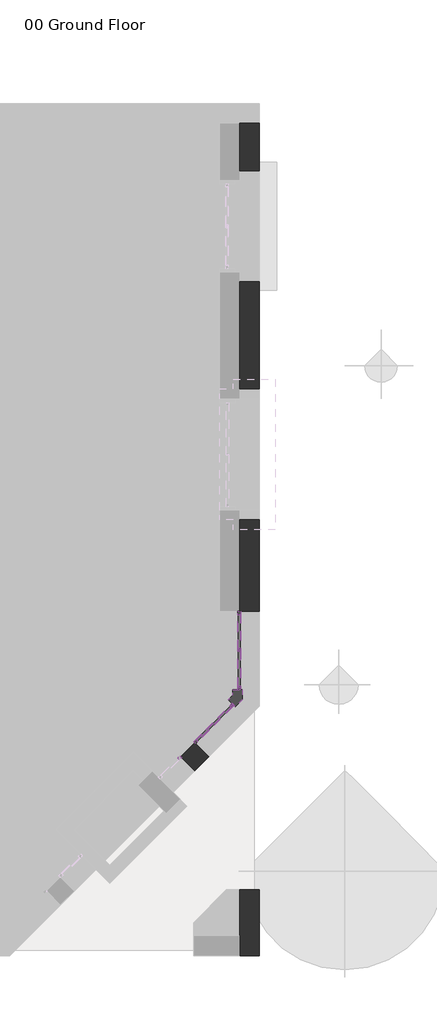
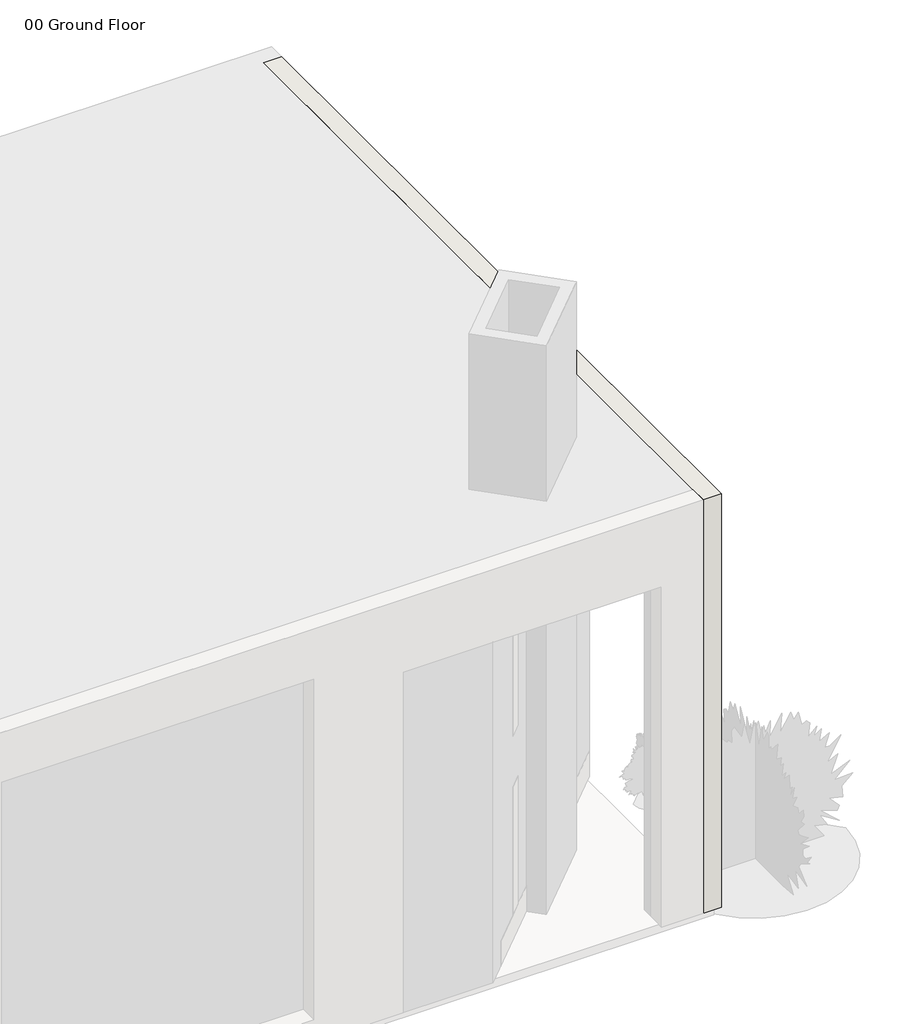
# One storey, part 2 of 3: 60 members, 24 plates, 3 walls.
"""IFC4 building model written with IfcOpenShell, lengths in millimetres."""

from ifc_helpers import new_model, si_unit, frame, origin, origin_with_axes, place, context, project, spatial, polyline, outline, extrude, faceted_brep, transform, mapped, element, save
from components import l_corner_mullion_l_mullion_1_6c701851, l_corner_mullion_l_mullion_1_c42eb2e1, l_corner_mullion_l_mullion_1_990ac218, l_corner_mullion_l_mullion_1_b7400e29, rectangular_mullion_30mm_square_c99fbce2, rectangular_mullion_30mm_square_86fe4f9d, rectangular_mullion_30mm_square_0cab2742, rectangular_mullion_30mm_square_9a9e542b, rectangular_mullion_30mm_square_d540a23e, rectangular_mullion_30mm_square_b8f5c0d0, rectangular_mullion_30mm_square_92fc4059, rectangular_mullion_30mm_square_c7845013, rectangular_mullion_30mm_square_cfffb5b5, rectangular_mullion_30mm_square_2bdfadd5, rectangular_mullion_30mm_square_d3a20935, rectangular_mullion_30mm_square_36c9886d, rectangular_mullion_30mm_square_5c36246a, rectangular_mullion_30mm_square_19e9d722, rectangular_mullion_30mm_square_e6c345db, rectangular_mullion_30mm_square_465452b0, rectangular_mullion_30mm_square_243782b9, rectangular_mullion_30mm_square_9f93f3b7, rectangular_mullion_30mm_square_b8c613d2, rectangular_mullion_30mm_square_a630d028, rectangular_mullion_30mm_square_57db9ed4, rectangular_mullion_30mm_square_43e794fb, rectangular_mullion_30mm_square_5b0a7153, rectangular_mullion_30mm_square_79db5f72, rectangular_mullion_30mm_square_9b7f0ff9, rectangular_mullion_30mm_square_73ec684f, rectangular_mullion_30mm_square_99fc8dea, rectangular_mullion_30mm_square_0144705c, rectangular_mullion_30mm_square_a3b71786, rectangular_mullion_30mm_square_283fde36, rectangular_mullion_30mm_square_83ac8318, rectangular_mullion_30mm_square_d8b3822f, rectangular_mullion_30mm_square_8af27c46, rectangular_mullion_30mm_square_169eb236, rectangular_mullion_30mm_square_d37a6e9a, rectangular_mullion_30mm_square_640eb250, rectangular_mullion_30mm_square_5b9becf0, system_panel_glazed_29cb387f, system_panel_glazed_66c00574, system_panel_glazed_60aad79c, system_panel_glazed_de956dc5, system_panel_glazed_7e76eec9, system_panel_glazed_4ccf8f99, system_panel_glazed_48e7aa56, system_panel_glazed_bf098422, system_panel_glazed_59f69a9d, system_panel_glazed_41b5ac35, system_panel_glazed_49ce6051, system_panel_glazed_b8dc1328, system_panel_glazed_4078d1d8, system_panel_glazed_5cd88ea6, system_panel_glazed_796e0f42, system_panel_glazed_7af4c93c, system_panel_glazed_cb251399, system_panel_glazed_a4b6cea3, system_panel_glazed_86d274d6, system_panel_glazed_e756f155, system_panel_glazed_d6d17fb9, system_panel_glazed_fee34500, system_panel_glazed_deddf482, system_panel_glazed_54347527

model = new_model("IFC4")

# Units and contexts
model_context = context("Model", 3, world=origin())
ifc_project = project(units=[si_unit("LENGTHUNIT", "METRE", prefix="MILLI")], contexts=[model_context])

# Site, building, storey
site = spatial("IfcSite", under=ifc_project)
building = spatial("IfcBuilding", under=site)
storey = spatial("IfcBuildingStorey", under=building, Name="00 Ground Floor", Elevation=0.0)

# Members
placement = place(None, origin())
l_corner_mullion_l_mullion_1_shape = l_corner_mullion_l_mullion_1_6c701851(model_context)
element("IfcMember", 1, ObjectType="L Corner Mullion : L Mullion 1", at=placement, inside=storey, context=model_context, shape_type="MappedRepresentation", body=[
    mapped(l_corner_mullion_l_mullion_1_shape, transform((12694.2552971, 3926.1313165, 2071.7444455), x_axis=(0.0, -1.0, 0.0), y_axis=(1.0, 0.0, 0.0), z_axis=(0.0, 0.0, 1.0))),
])
l_corner_mullion_l_mullion_1_2_shape = l_corner_mullion_l_mullion_1_c42eb2e1(model_context)
element("IfcMember", 2, ObjectType="L Corner Mullion : L Mullion 1", at=placement, inside=storey, context=model_context, shape_type="MappedRepresentation", body=[
    mapped(l_corner_mullion_l_mullion_1_2_shape, transform((12694.2552971, 3926.1313165, 2700.0), x_axis=(0.0, -1.0, 0.0), y_axis=(1.0, 0.0, 0.0), z_axis=(0.0, 0.0, 1.0))),
])
l_corner_mullion_l_mullion_1_3_shape = l_corner_mullion_l_mullion_1_990ac218(model_context)
element("IfcMember", 3, ObjectType="L Corner Mullion : L Mullion 1", at=placement, inside=storey, context=model_context, shape_type="MappedRepresentation", body=[
    mapped(l_corner_mullion_l_mullion_1_3_shape, transform((12694.2552971, 3926.1313165, 980.0), x_axis=(0.0, -1.0, 0.0), y_axis=(1.0, 0.0, 0.0), z_axis=(0.0, 0.0, 1.0))),
])
l_corner_mullion_l_mullion_1_4_shape = l_corner_mullion_l_mullion_1_b7400e29(model_context)
element("IfcMember", 4, ObjectType="L Corner Mullion : L Mullion 1", at=placement, inside=storey, context=model_context, shape_type="MappedRepresentation", body=[
    mapped(l_corner_mullion_l_mullion_1_4_shape, transform((12694.2552971, 3926.1313165, 460.0), x_axis=(0.0, -1.0, 0.0), y_axis=(1.0, 0.0, 0.0), z_axis=(0.0, 0.0, 1.0))),
])
rectangular_mullion_30mm_square_shape = rectangular_mullion_30mm_square_c99fbce2(model_context)
element("IfcMember", 5, ObjectType="Rectangular Mullion : 30mm Square", at=placement, inside=storey, context=model_context, shape_type="MappedRepresentation", body=[
    mapped(rectangular_mullion_30mm_square_shape, transform((12601.4943665, 3833.3703858, 4122.4158839), x_axis=(0.0, 0.0, 1.0), y_axis=(0.707106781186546, -0.7071067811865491, 0.0), z_axis=(0.707106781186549, 0.7071067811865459, 0.0))),
])
element("IfcMember", 6, ObjectType="Rectangular Mullion : 30mm Square", at=placement, inside=storey, context=model_context, shape_type="MappedRepresentation", body=[
    mapped(rectangular_mullion_30mm_square_shape, transform((12601.4943665, 3833.3703858, 5380.0), x_axis=(0.0, 0.0, 1.0), y_axis=(0.707106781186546, -0.7071067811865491, 0.0), z_axis=(0.707106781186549, 0.7071067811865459, 0.0))),
])
rectangular_mullion_30mm_square_2_shape = rectangular_mullion_30mm_square_86fe4f9d(model_context)
element("IfcMember", 7, ObjectType="Rectangular Mullion : 30mm Square", at=placement, inside=storey, context=model_context, shape_type="MappedRepresentation", body=[
    mapped(rectangular_mullion_30mm_square_2_shape, transform((12598.7958817, 3830.671901, 3602.4158839), x_axis=(0.0, 0.0, -1.0), y_axis=(0.7071067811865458, -0.7071067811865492, 0.0), z_axis=(-0.7071067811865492, -0.7071067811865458, 0.0))),
])
rectangular_mullion_30mm_square_3_shape = rectangular_mullion_30mm_square_0cab2742(model_context)
element("IfcMember", 8, ObjectType="Rectangular Mullion : 30mm Square", at=placement, inside=storey, context=model_context, shape_type="MappedRepresentation", body=[
    mapped(rectangular_mullion_30mm_square_3_shape, transform((12581.1182121, 3812.9942315, 3602.4158839), x_axis=(0.7071067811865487, 0.7071067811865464, 0.0), y_axis=(0.7071067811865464, -0.7071067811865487, 0.0), z_axis=(0.0, 0.0, -1.0))),
])
rectangular_mullion_30mm_square_4_shape = rectangular_mullion_30mm_square_9a9e542b(model_context)
element("IfcMember", 9, ObjectType="Rectangular Mullion : 30mm Square", at=placement, inside=storey, context=model_context, shape_type="MappedRepresentation", body=[
    mapped(rectangular_mullion_30mm_square_4_shape, transform((12694.2552971, 4083.6313165, 980.0), x_axis=(0.0, 1.0, 0.0), y_axis=(1.0, 0.0, 0.0), z_axis=(0.0, 0.0, -1.0))),
])
rectangular_mullion_30mm_square_5_shape = rectangular_mullion_30mm_square_d540a23e(model_context)
element("IfcMember", 10, ObjectType="Rectangular Mullion : 30mm Square", at=placement, inside=storey, context=model_context, shape_type="MappedRepresentation", body=[
    mapped(rectangular_mullion_30mm_square_5_shape, transform((12694.2552971, 5250.511329, 980.0), x_axis=(0.0, 1.0, 0.0), y_axis=(1.0, 0.0, 0.0), z_axis=(0.0, 0.0, -1.0))),
])
rectangular_mullion_30mm_square_6_shape = rectangular_mullion_30mm_square_b8f5c0d0(model_context)
element("IfcMember", 11, ObjectType="Rectangular Mullion : 30mm Square", at=placement, inside=storey, context=model_context, shape_type="MappedRepresentation", body=[
    mapped(rectangular_mullion_30mm_square_6_shape, transform((12694.2552971, 4058.6313165, 2071.7444455), x_axis=(0.0, 0.0, 1.0), y_axis=(1.0, 0.0, 0.0), z_axis=(0.0, 1.0, 0.0))),
])
element("IfcMember", 12, ObjectType="Rectangular Mullion : 30mm Square", at=placement, inside=storey, context=model_context, shape_type="MappedRepresentation", body=[
    mapped(rectangular_mullion_30mm_square_6_shape, transform((12694.2552971, 4058.6313165, 980.0), x_axis=(0.0, 0.0, 1.0), y_axis=(1.0, 0.0, 0.0), z_axis=(0.0, 1.0, 0.0))),
])
element("IfcMember", 13, ObjectType="Rectangular Mullion : 30mm Square", at=placement, inside=storey, context=model_context, shape_type="MappedRepresentation", body=[
    mapped(rectangular_mullion_30mm_square_6_shape, transform((12694.2552971, 4058.6313165, 460.0), x_axis=(0.0, 0.0, 1.0), y_axis=(1.0, 0.0, 0.0), z_axis=(0.0, 1.0, 0.0))),
])
rectangular_mullion_30mm_square_7_shape = rectangular_mullion_30mm_square_92fc4059(model_context)
element("IfcMember", 14, ObjectType="Rectangular Mullion : 30mm Square", at=placement, inside=storey, context=model_context, shape_type="MappedRepresentation", body=[
    mapped(rectangular_mullion_30mm_square_7_shape, transform((12694.2552971, 4057.3150827, 100.0), x_axis=(0.0, 0.0, -1.0), y_axis=(1.0, 0.0, 0.0), z_axis=(0.0, -1.0, 0.0))),
])
rectangular_mullion_30mm_square_8_shape = rectangular_mullion_30mm_square_c7845013(model_context)
element("IfcMember", 15, ObjectType="Rectangular Mullion : 30mm Square", at=placement, inside=storey, context=model_context, shape_type="MappedRepresentation", body=[
    mapped(rectangular_mullion_30mm_square_8_shape, transform((12694.2552971, 4083.6313165, 2700.0), x_axis=(0.0, 0.0, 1.0), y_axis=(1.0, 0.0, 0.0), z_axis=(0.0, 1.0, 0.0))),
])
rectangular_mullion_30mm_square_9_shape = rectangular_mullion_30mm_square_cfffb5b5(model_context)
element("IfcMember", 16, ObjectType="Rectangular Mullion : 30mm Square", at=placement, inside=storey, context=model_context, shape_type="MappedRepresentation", body=[
    mapped(rectangular_mullion_30mm_square_9_shape, transform((12694.2552971, 4667.0713227, 1005.0), x_axis=(0.0, 1.0, 0.0), y_axis=(1.0, 0.0, 0.0), z_axis=(0.0, 0.0, -1.0))),
])
rectangular_mullion_30mm_square_10_shape = rectangular_mullion_30mm_square_2bdfadd5(model_context)
element("IfcMember", 17, ObjectType="Rectangular Mullion : 30mm Square", at=placement, inside=storey, context=model_context, shape_type="MappedRepresentation", body=[
    mapped(rectangular_mullion_30mm_square_10_shape, transform((12694.2552971, 5200.511329, 2071.7444455), x_axis=(0.0, 0.0, 1.0), y_axis=(1.0, 0.0, 0.0), z_axis=(0.0, 1.0, 0.0))),
])
element("IfcMember", 18, ObjectType="Rectangular Mullion : 30mm Square", at=placement, inside=storey, context=model_context, shape_type="MappedRepresentation", body=[
    mapped(rectangular_mullion_30mm_square_10_shape, transform((12694.2552971, 5200.511329, 980.0), x_axis=(0.0, 0.0, 1.0), y_axis=(1.0, 0.0, 0.0), z_axis=(0.0, 1.0, 0.0))),
])
element("IfcMember", 19, ObjectType="Rectangular Mullion : 30mm Square", at=placement, inside=storey, context=model_context, shape_type="MappedRepresentation", body=[
    mapped(rectangular_mullion_30mm_square_10_shape, transform((12694.2552971, 5200.511329, 460.0), x_axis=(0.0, 0.0, 1.0), y_axis=(1.0, 0.0, 0.0), z_axis=(0.0, 1.0, 0.0))),
])
rectangular_mullion_30mm_square_11_shape = rectangular_mullion_30mm_square_d3a20935(model_context)
element("IfcMember", 20, ObjectType="Rectangular Mullion : 30mm Square", at=placement, inside=storey, context=model_context, shape_type="MappedRepresentation", body=[
    mapped(rectangular_mullion_30mm_square_11_shape, transform((12694.2552971, 5250.511329, 2700.0), x_axis=(0.0, 0.0, 1.0), y_axis=(1.0, 0.0, 0.0), z_axis=(0.0, 1.0, 0.0))),
])
element("IfcMember", 21, ObjectType="Rectangular Mullion : 30mm Square", at=placement, inside=storey, context=model_context, shape_type="MappedRepresentation", body=[
    mapped(rectangular_mullion_30mm_square_11_shape, transform((12694.2552971, 4667.0713227, 2700.0), x_axis=(0.0, 0.0, 1.0), y_axis=(1.0, 0.0, 0.0), z_axis=(0.0, 1.0, 0.0))),
])
rectangular_mullion_30mm_square_12_shape = rectangular_mullion_30mm_square_36c9886d(model_context)
element("IfcMember", 22, ObjectType="Rectangular Mullion : 30mm Square", at=placement, inside=storey, context=model_context, shape_type="MappedRepresentation", body=[
    mapped(rectangular_mullion_30mm_square_12_shape, transform((12694.2552971, 4667.0713227, 100.0), x_axis=(0.0, 0.0, -1.0), y_axis=(1.0, 0.0, 0.0), z_axis=(0.0, -1.0, 0.0))),
])
rectangular_mullion_30mm_square_13_shape = rectangular_mullion_30mm_square_5c36246a(model_context)
element("IfcMember", 23, ObjectType="Rectangular Mullion : 30mm Square", at=placement, inside=storey, context=model_context, shape_type="MappedRepresentation", body=[
    mapped(rectangular_mullion_30mm_square_13_shape, transform((12694.2552971, 4667.0713227, 2071.7444455), x_axis=(0.0, 0.0, 1.0), y_axis=(1.0, 0.0, 0.0), z_axis=(0.0, 1.0, 0.0))),
])
element("IfcMember", 24, ObjectType="Rectangular Mullion : 30mm Square", at=placement, inside=storey, context=model_context, shape_type="MappedRepresentation", body=[
    mapped(rectangular_mullion_30mm_square_13_shape, transform((12694.2552971, 4667.0713227, 980.0), x_axis=(0.0, 0.0, 1.0), y_axis=(1.0, 0.0, 0.0), z_axis=(0.0, 1.0, 0.0))),
])
element("IfcMember", 25, ObjectType="Rectangular Mullion : 30mm Square", at=placement, inside=storey, context=model_context, shape_type="MappedRepresentation", body=[
    mapped(rectangular_mullion_30mm_square_13_shape, transform((12694.2552971, 4667.0713227, 460.0), x_axis=(0.0, 0.0, 1.0), y_axis=(1.0, 0.0, 0.0), z_axis=(0.0, 1.0, 0.0))),
])
rectangular_mullion_30mm_square_14_shape = rectangular_mullion_30mm_square_19e9d722(model_context)
element("IfcMember", 26, ObjectType="Rectangular Mullion : 30mm Square", at=placement, inside=storey, context=model_context, shape_type="MappedRepresentation", body=[
    mapped(rectangular_mullion_30mm_square_14_shape, transform((12694.2552971, 4108.6313165, 100.0), x_axis=(0.0, 0.0, -1.0), y_axis=(1.0, 0.0, 0.0), z_axis=(0.0, -1.0, 0.0))),
])
rectangular_mullion_30mm_square_15_shape = rectangular_mullion_30mm_square_e6c345db(model_context)
element("IfcMember", 27, ObjectType="Rectangular Mullion : 30mm Square", at=placement, inside=storey, context=model_context, shape_type="MappedRepresentation", body=[
    mapped(rectangular_mullion_30mm_square_15_shape, transform((12694.2552971, 4667.0713227, 2096.7444455), x_axis=(0.0, 1.0, 0.0), y_axis=(1.0, 0.0, 0.0), z_axis=(0.0, 0.0, -1.0))),
])
rectangular_mullion_30mm_square_16_shape = rectangular_mullion_30mm_square_465452b0(model_context)
element("IfcMember", 28, ObjectType="Rectangular Mullion : 30mm Square", at=placement, inside=storey, context=model_context, shape_type="MappedRepresentation", body=[
    mapped(rectangular_mullion_30mm_square_16_shape, transform((12694.2552971, 4083.6313165, 2071.7444455), x_axis=(0.0, 1.0, 0.0), y_axis=(1.0, 0.0, 0.0), z_axis=(0.0, 0.0, -1.0))),
])
rectangular_mullion_30mm_square_17_shape = rectangular_mullion_30mm_square_243782b9(model_context)
element("IfcMember", 29, ObjectType="Rectangular Mullion : 30mm Square", at=placement, inside=storey, context=model_context, shape_type="MappedRepresentation", body=[
    mapped(rectangular_mullion_30mm_square_17_shape, transform((12694.2552971, 5250.511329, 2071.7444455), x_axis=(0.0, 1.0, 0.0), y_axis=(1.0, 0.0, 0.0), z_axis=(0.0, 0.0, -1.0))),
])
rectangular_mullion_30mm_square_18_shape = rectangular_mullion_30mm_square_9f93f3b7(model_context)
element("IfcMember", 30, ObjectType="Rectangular Mullion : 30mm Square", at=placement, inside=storey, context=model_context, shape_type="MappedRepresentation", body=[
    mapped(rectangular_mullion_30mm_square_18_shape, transform((12015.4327872, 3247.3088065, 5950.0), x_axis=(-0.7071067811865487, -0.7071067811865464, 0.0), y_axis=(0.7071067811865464, -0.7071067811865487, 0.0), z_axis=(0.0, 0.0, 1.0))),
])
rectangular_mullion_30mm_square_19_shape = rectangular_mullion_30mm_square_b8c613d2(model_context)
element("IfcMember", 31, ObjectType="Rectangular Mullion : 30mm Square", at=placement, inside=storey, context=model_context, shape_type="MappedRepresentation", body=[
    mapped(rectangular_mullion_30mm_square_19_shape, transform((12015.4327872, 3247.3088065, 2130.0), x_axis=(-0.7071067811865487, -0.7071067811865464, 0.0), y_axis=(0.7071067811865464, -0.7071067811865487, 0.0), z_axis=(0.0, 0.0, 1.0))),
])
rectangular_mullion_30mm_square_20_shape = rectangular_mullion_30mm_square_a630d028(model_context)
element("IfcMember", 32, ObjectType="Rectangular Mullion : 30mm Square", at=placement, inside=storey, context=model_context, shape_type="MappedRepresentation", body=[
    mapped(rectangular_mullion_30mm_square_20_shape, transform((12562.5566591, 3794.4326785, 1010.0), x_axis=(0.0, 0.0, 1.0), y_axis=(0.7071067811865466, -0.7071067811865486, 0.0), z_axis=(0.7071067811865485, 0.7071067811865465, 0.0))),
])
element("IfcMember", 33, ObjectType="Rectangular Mullion : 30mm Square", at=placement, inside=storey, context=model_context, shape_type="MappedRepresentation", body=[
    mapped(rectangular_mullion_30mm_square_20_shape, transform((12562.5566591, 3794.4326785, 2130.0), x_axis=(0.0, 0.0, 1.0), y_axis=(0.7071067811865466, -0.7071067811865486, 0.0), z_axis=(0.7071067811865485, 0.7071067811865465, 0.0))),
])
rectangular_mullion_30mm_square_21_shape = rectangular_mullion_30mm_square_57db9ed4(model_context)
element("IfcMember", 34, ObjectType="Rectangular Mullion : 30mm Square", at=placement, inside=storey, context=model_context, shape_type="MappedRepresentation", body=[
    mapped(rectangular_mullion_30mm_square_21_shape, transform((12601.4943665, 3833.3703858, 1010.0), x_axis=(0.0, 0.0, 1.0), y_axis=(0.7071067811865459, -0.7071067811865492, 0.0), z_axis=(0.7071067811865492, 0.7071067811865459, 0.0))),
])
element("IfcMember", 35, ObjectType="Rectangular Mullion : 30mm Square", at=placement, inside=storey, context=model_context, shape_type="MappedRepresentation", body=[
    mapped(rectangular_mullion_30mm_square_21_shape, transform((12601.4943665, 3833.3703858, 2130.0), x_axis=(0.0, 0.0, 1.0), y_axis=(0.7071067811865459, -0.7071067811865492, 0.0), z_axis=(0.7071067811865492, 0.7071067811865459, 0.0))),
])
rectangular_mullion_30mm_square_22_shape = rectangular_mullion_30mm_square_43e794fb(model_context)
element("IfcMember", 36, ObjectType="Rectangular Mullion : 30mm Square", at=placement, inside=storey, context=model_context, shape_type="MappedRepresentation", body=[
    mapped(rectangular_mullion_30mm_square_22_shape, transform((12580.2343287, 3812.110348, 1010.0), x_axis=(0.7071067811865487, 0.7071067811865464, 0.0), y_axis=(0.7071067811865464, -0.7071067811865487, 0.0), z_axis=(0.0, 0.0, -1.0))),
])
rectangular_mullion_30mm_square_23_shape = rectangular_mullion_30mm_square_5b0a7153(model_context)
element("IfcMember", 37, ObjectType="Rectangular Mullion : 30mm Square", at=placement, inside=storey, context=model_context, shape_type="MappedRepresentation", body=[
    mapped(rectangular_mullion_30mm_square_23_shape, transform((12601.4943665, 3833.3703858, 2700.0), x_axis=(0.0, 0.0, 1.0), y_axis=(0.7071067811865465, -0.7071067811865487, 0.0), z_axis=(0.7071067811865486, 0.7071067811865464, 0.0))),
])
rectangular_mullion_30mm_square_24_shape = rectangular_mullion_30mm_square_79db5f72(model_context)
element("IfcMember", 38, ObjectType="Rectangular Mullion : 30mm Square", at=placement, inside=storey, context=model_context, shape_type="MappedRepresentation", body=[
    mapped(rectangular_mullion_30mm_square_24_shape, transform((12580.2343287, 3812.110348, 2700.0), x_axis=(0.0, 0.0, 1.0), y_axis=(0.7071067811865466, -0.7071067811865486, 0.0), z_axis=(0.7071067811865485, 0.7071067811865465, 0.0))),
])
rectangular_mullion_30mm_square_25_shape = rectangular_mullion_30mm_square_9b7f0ff9(model_context)
element("IfcMember", 39, ObjectType="Rectangular Mullion : 30mm Square", at=placement, inside=storey, context=model_context, shape_type="MappedRepresentation", body=[
    mapped(rectangular_mullion_30mm_square_25_shape, transform((12015.4327872, 3247.3088065, 1010.0), x_axis=(-0.7071067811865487, -0.7071067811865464, 0.0), y_axis=(0.7071067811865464, -0.7071067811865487, 0.0), z_axis=(0.0, 0.0, 1.0))),
])
element("IfcMember", 40, ObjectType="Rectangular Mullion : 30mm Square", at=placement, inside=storey, context=model_context, shape_type="MappedRepresentation", body=[
    mapped(rectangular_mullion_30mm_square_24_shape, transform((12015.4327872, 3247.3088065, 450.0), x_axis=(0.0, 0.0, -1.0), y_axis=(0.7071067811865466, -0.7071067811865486, 0.0), z_axis=(-0.7071067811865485, -0.7071067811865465, 0.0))),
])
element("IfcMember", 41, ObjectType="Rectangular Mullion : 30mm Square", at=placement, inside=storey, context=model_context, shape_type="MappedRepresentation", body=[
    mapped(rectangular_mullion_30mm_square_23_shape, transform((12580.2343287, 3812.110348, 450.0), x_axis=(0.0, 0.0, -1.0), y_axis=(0.7071067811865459, -0.7071067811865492, 0.0), z_axis=(-0.7071067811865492, -0.7071067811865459, 0.0))),
])
rectangular_mullion_30mm_square_26_shape = rectangular_mullion_30mm_square_73ec684f(model_context)
element("IfcMember", 42, ObjectType="Rectangular Mullion : 30mm Square", at=placement, inside=storey, context=model_context, shape_type="MappedRepresentation", body=[
    mapped(rectangular_mullion_30mm_square_26_shape, transform((12580.2343287, 3812.110348, 500.0), x_axis=(0.7071067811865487, 0.7071067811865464, 0.0), y_axis=(0.7071067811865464, -0.7071067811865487, 0.0), z_axis=(0.0, 0.0, -1.0))),
])
rectangular_mullion_30mm_square_27_shape = rectangular_mullion_30mm_square_99fc8dea(model_context)
element("IfcMember", 43, ObjectType="Rectangular Mullion : 30mm Square", at=placement, inside=storey, context=model_context, shape_type="MappedRepresentation", body=[
    mapped(rectangular_mullion_30mm_square_27_shape, transform((12015.4327872, 3247.3088065, 5380.0), x_axis=(-0.7071067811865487, -0.7071067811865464, 0.0), y_axis=(0.7071067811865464, -0.7071067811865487, 0.0), z_axis=(0.0, 0.0, 1.0))),
])
rectangular_mullion_30mm_square_28_shape = rectangular_mullion_30mm_square_0144705c(model_context)
element("IfcMember", 44, ObjectType="Rectangular Mullion : 30mm Square", at=placement, inside=storey, context=model_context, shape_type="MappedRepresentation", body=[
    mapped(rectangular_mullion_30mm_square_28_shape, transform((12015.4327872, 3247.3088065, 4122.4158839), x_axis=(-0.7071067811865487, -0.7071067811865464, 0.0), y_axis=(0.7071067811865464, -0.7071067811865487, 0.0), z_axis=(0.0, 0.0, 1.0))),
])
rectangular_mullion_30mm_square_29_shape = rectangular_mullion_30mm_square_a3b71786(model_context)
element("IfcMember", 45, ObjectType="Rectangular Mullion : 30mm Square", at=placement, inside=storey, context=model_context, shape_type="MappedRepresentation", body=[
    mapped(rectangular_mullion_30mm_square_29_shape, transform((12015.4327872, 3247.3088065, 3602.4158839), x_axis=(0.0, 0.0, -1.0), y_axis=(0.7071067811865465, -0.7071067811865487, 0.0), z_axis=(-0.7071067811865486, -0.7071067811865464, 0.0))),
])
rectangular_mullion_30mm_square_30_shape = rectangular_mullion_30mm_square_283fde36(model_context)
element("IfcMember", 46, ObjectType="Rectangular Mullion : 30mm Square", at=placement, inside=storey, context=model_context, shape_type="MappedRepresentation", body=[
    mapped(rectangular_mullion_30mm_square_30_shape, transform((12563.4405426, 3795.316562, 4122.4158839), x_axis=(0.0, 0.0, 1.0), y_axis=(0.7071067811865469, -0.7071067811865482, 0.0), z_axis=(0.7071067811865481, 0.7071067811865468, 0.0))),
])
element("IfcMember", 47, ObjectType="Rectangular Mullion : 30mm Square", at=placement, inside=storey, context=model_context, shape_type="MappedRepresentation", body=[
    mapped(rectangular_mullion_30mm_square_30_shape, transform((12563.4405426, 3795.316562, 5380.0), x_axis=(0.0, 0.0, 1.0), y_axis=(0.7071067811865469, -0.7071067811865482, 0.0), z_axis=(0.7071067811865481, 0.7071067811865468, 0.0))),
])
element("IfcMember", 48, ObjectType="Rectangular Mullion : 30mm Square", at=placement, inside=storey, context=model_context, shape_type="MappedRepresentation", body=[
    mapped(rectangular_mullion_30mm_square_2_shape, transform((12601.4943665, 3833.3703858, 6000.0), x_axis=(0.0, 0.0, 1.0), y_axis=(0.7071067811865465, -0.7071067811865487, 0.0), z_axis=(0.7071067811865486, 0.7071067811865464, 0.0))),
])
element("IfcMember", 49, ObjectType="Rectangular Mullion : 30mm Square", at=placement, inside=storey, context=model_context, shape_type="MappedRepresentation", body=[
    mapped(rectangular_mullion_30mm_square_29_shape, transform((12563.4405426, 3795.316562, 6000.0), x_axis=(0.0, 0.0, 1.0), y_axis=(0.7071067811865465, -0.7071067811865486, 0.0), z_axis=(0.7071067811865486, 0.7071067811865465, 0.0))),
])
rectangular_mullion_30mm_square_31_shape = rectangular_mullion_30mm_square_83ac8318(model_context)
element("IfcMember", 50, ObjectType="Rectangular Mullion : 30mm Square", at=placement, inside=storey, context=model_context, shape_type="MappedRepresentation", body=[
    mapped(rectangular_mullion_30mm_square_31_shape, transform((12581.1182121, 3812.9942315, 4122.4158839), x_axis=(0.7071067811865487, 0.7071067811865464, 0.0), y_axis=(0.7071067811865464, -0.7071067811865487, 0.0), z_axis=(0.0, 0.0, -1.0))),
])
rectangular_mullion_30mm_square_32_shape = rectangular_mullion_30mm_square_d8b3822f(model_context)
element("IfcMember", 51, ObjectType="Rectangular Mullion : 30mm Square", at=placement, inside=storey, context=model_context, shape_type="MappedRepresentation", body=[
    mapped(rectangular_mullion_30mm_square_32_shape, transform((12581.1182121, 3812.9942315, 5380.0), x_axis=(0.7071067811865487, 0.7071067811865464, 0.0), y_axis=(0.7071067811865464, -0.7071067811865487, 0.0), z_axis=(0.0, 0.0, -1.0))),
])
rectangular_mullion_30mm_square_33_shape = rectangular_mullion_30mm_square_8af27c46(model_context)
element("IfcMember", 52, ObjectType="Rectangular Mullion : 30mm Square", at=placement, inside=storey, context=model_context, shape_type="MappedRepresentation", body=[
    mapped(rectangular_mullion_30mm_square_33_shape, transform((12694.2552971, 4667.0713227, 150.0), x_axis=(0.0, 1.0, 0.0), y_axis=(1.0, 0.0, 0.0), z_axis=(0.0, 0.0, -1.0))),
])
rectangular_mullion_30mm_square_34_shape = rectangular_mullion_30mm_square_169eb236(model_context)
element("IfcMember", 53, ObjectType="Rectangular Mullion : 30mm Square", at=placement, inside=storey, context=model_context, shape_type="MappedRepresentation", body=[
    mapped(rectangular_mullion_30mm_square_34_shape, transform((12694.2552971, 4083.6313165, 100.0), x_axis=(0.0, 1.0, 0.0), y_axis=(1.0, 0.0, 0.0), z_axis=(0.0, 0.0, -1.0))),
])
rectangular_mullion_30mm_square_35_shape = rectangular_mullion_30mm_square_d37a6e9a(model_context)
element("IfcMember", 54, ObjectType="Rectangular Mullion : 30mm Square", at=placement, inside=storey, context=model_context, shape_type="MappedRepresentation", body=[
    mapped(rectangular_mullion_30mm_square_35_shape, transform((12694.2552971, 4667.0713227, 485.0), x_axis=(0.0, 1.0, 0.0), y_axis=(1.0, 0.0, 0.0), z_axis=(0.0, 0.0, -1.0))),
])
element("IfcMember", 55, ObjectType="Rectangular Mullion : 30mm Square", at=placement, inside=storey, context=model_context, shape_type="MappedRepresentation", body=[
    mapped(rectangular_mullion_30mm_square_3_shape, transform((12694.2552971, 4083.6313165, 460.0), x_axis=(0.0, 1.0, 0.0), y_axis=(1.0, 0.0, 0.0), z_axis=(0.0, 0.0, -1.0))),
])
rectangular_mullion_30mm_square_36_shape = rectangular_mullion_30mm_square_640eb250(model_context)
element("IfcMember", 56, ObjectType="Rectangular Mullion : 30mm Square", at=placement, inside=storey, context=model_context, shape_type="MappedRepresentation", body=[
    mapped(rectangular_mullion_30mm_square_36_shape, transform((12694.2552971, 5250.511329, 100.0), x_axis=(0.0, 1.0, 0.0), y_axis=(1.0, 0.0, 0.0), z_axis=(0.0, 0.0, -1.0))),
])
rectangular_mullion_30mm_square_37_shape = rectangular_mullion_30mm_square_5b9becf0(model_context)
element("IfcMember", 57, ObjectType="Rectangular Mullion : 30mm Square", at=placement, inside=storey, context=model_context, shape_type="MappedRepresentation", body=[
    mapped(rectangular_mullion_30mm_square_37_shape, transform((12694.2552971, 5250.511329, 460.0), x_axis=(0.0, 1.0, 0.0), y_axis=(1.0, 0.0, 0.0), z_axis=(0.0, 0.0, -1.0))),
])
element("IfcMember", 58, ObjectType="Rectangular Mullion : 30mm Square", at=placement, inside=storey, context=model_context, shape_type="MappedRepresentation", body=[
    mapped(rectangular_mullion_30mm_square_3_shape, transform((12580.2343287, 3812.110348, 2130.0), x_axis=(0.7071067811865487, 0.7071067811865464, 0.0), y_axis=(0.7071067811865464, -0.7071067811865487, 0.0), z_axis=(0.0, 0.0, -1.0))),
])
element("IfcMember", 59, ObjectType="Rectangular Mullion : 30mm Square", at=placement, inside=storey, context=model_context, shape_type="MappedRepresentation", body=[
    mapped(rectangular_mullion_30mm_square_37_shape, transform((12015.4327872, 3247.3088065, 2650.0), x_axis=(-0.7071067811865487, -0.7071067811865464, 0.0), y_axis=(0.7071067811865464, -0.7071067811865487, 0.0), z_axis=(0.0, 0.0, 1.0))),
])
element("IfcMember", 60, ObjectType="Rectangular Mullion : 30mm Square", at=placement, inside=storey, context=model_context, shape_type="MappedRepresentation", body=[
    mapped(rectangular_mullion_30mm_square_18_shape, transform((11803.3007528, 3035.1767722, 2130.0), x_axis=(0.7071067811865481, 0.707106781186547, 0.0), y_axis=(0.707106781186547, -0.7071067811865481, 0.0), z_axis=(0.0, 0.0, -1.0))),
])

# Plates
system_panel_glazed_shape = system_panel_glazed_29cb387f(model_context)
element("IfcPlate", 61, ObjectType="System Panel : Glazed", at=placement, inside=storey, context=model_context, shape_type="MappedRepresentation", body=[
    mapped(system_panel_glazed_shape, transform((12600.1451241, 3832.0211434, 3652.4158839), x_axis=(0.7071067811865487, 0.7071067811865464, 0.0), y_axis=(-0.7071067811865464, 0.7071067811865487, 0.0), z_axis=(0.0, 0.0, 1.0))),
])
system_panel_glazed_2_shape = system_panel_glazed_66c00574(model_context)
element("IfcPlate", 62, ObjectType="System Panel : Glazed", at=placement, inside=storey, context=model_context, shape_type="MappedRepresentation", body=[
    mapped(system_panel_glazed_2_shape, transform((12694.2552971, 4057.9731996, 1005.0), x_axis=(0.0, 1.0, 0.0), y_axis=(-1.0, 0.0, 0.0), z_axis=(0.0, 0.0, 1.0))),
])
system_panel_glazed_3_shape = system_panel_glazed_60aad79c(model_context)
element("IfcPlate", 63, ObjectType="System Panel : Glazed", at=placement, inside=storey, context=model_context, shape_type="MappedRepresentation", body=[
    mapped(system_panel_glazed_3_shape, transform((12694.2552971, 4946.2913259, 1005.0), x_axis=(0.0, 1.0, 0.0), y_axis=(-1.0, 0.0, 0.0), z_axis=(0.0, 0.0, 1.0))),
])
system_panel_glazed_4_shape = system_panel_glazed_de956dc5(model_context)
element("IfcPlate", 64, ObjectType="System Panel : Glazed", at=placement, inside=storey, context=model_context, shape_type="MappedRepresentation", body=[
    mapped(system_panel_glazed_4_shape, transform((12694.2552971, 4375.3513196, 1005.0), x_axis=(0.0, 1.0, 0.0), y_axis=(-1.0, 0.0, 0.0), z_axis=(0.0, 0.0, 1.0))),
])
system_panel_glazed_5_shape = system_panel_glazed_7e76eec9(model_context)
element("IfcPlate", 65, ObjectType="System Panel : Glazed", at=placement, inside=storey, context=model_context, shape_type="MappedRepresentation", body=[
    mapped(system_panel_glazed_5_shape, transform((12694.2552971, 4057.9731996, 2096.7444455), x_axis=(0.0, 1.0, 0.0), y_axis=(-1.0, 0.0, 0.0), z_axis=(0.0, 0.0, 1.0))),
])
system_panel_glazed_6_shape = system_panel_glazed_4ccf8f99(model_context)
element("IfcPlate", 66, ObjectType="System Panel : Glazed", at=placement, inside=storey, context=model_context, shape_type="MappedRepresentation", body=[
    mapped(system_panel_glazed_6_shape, transform((12694.2552971, 4946.2913259, 2096.7444455), x_axis=(0.0, 1.0, 0.0), y_axis=(-1.0, 0.0, 0.0), z_axis=(0.0, 0.0, 1.0))),
])
system_panel_glazed_7_shape = system_panel_glazed_48e7aa56(model_context)
element("IfcPlate", 67, ObjectType="System Panel : Glazed", at=placement, inside=storey, context=model_context, shape_type="MappedRepresentation", body=[
    mapped(system_panel_glazed_7_shape, transform((12694.2552971, 4375.3513196, 2096.7444455), x_axis=(0.0, 1.0, 0.0), y_axis=(-1.0, 0.0, 0.0), z_axis=(0.0, 0.0, 1.0))),
])
system_panel_glazed_8_shape = system_panel_glazed_bf098422(model_context)
element("IfcPlate", 68, ObjectType="System Panel : Glazed", at=placement, inside=storey, context=model_context, shape_type="MappedRepresentation", body=[
    mapped(system_panel_glazed_8_shape, transform((12600.1451241, 3832.0211434, 5405.0), x_axis=(0.7071067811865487, 0.7071067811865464, 0.0), y_axis=(-0.7071067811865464, 0.7071067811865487, 0.0), z_axis=(0.0, 0.0, 1.0))),
])
system_panel_glazed_9_shape = system_panel_glazed_59f69a9d(model_context)
element("IfcPlate", 69, ObjectType="System Panel : Glazed", at=placement, inside=storey, context=model_context, shape_type="MappedRepresentation", body=[
    mapped(system_panel_glazed_9_shape, transform((12306.6723927, 3538.548412, 500.0), x_axis=(0.7071067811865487, 0.7071067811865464, 0.0), y_axis=(-0.7071067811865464, 0.7071067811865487, 0.0), z_axis=(0.0, 0.0, 1.0))),
])
system_panel_glazed_10_shape = system_panel_glazed_41b5ac35(model_context)
element("IfcPlate", 70, ObjectType="System Panel : Glazed", at=placement, inside=storey, context=model_context, shape_type="MappedRepresentation", body=[
    mapped(system_panel_glazed_10_shape, transform((12306.6723927, 3538.548412, 1035.0), x_axis=(0.7071067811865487, 0.7071067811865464, 0.0), y_axis=(-0.7071067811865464, 0.7071067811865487, 0.0), z_axis=(0.0, 0.0, 1.0))),
])
system_panel_glazed_11_shape = system_panel_glazed_49ce6051(model_context)
element("IfcPlate", 71, ObjectType="System Panel : Glazed", at=placement, inside=storey, context=model_context, shape_type="MappedRepresentation", body=[
    mapped(system_panel_glazed_11_shape, transform((12599.7031823, 3831.5792017, 500.0), x_axis=(0.7071067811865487, 0.7071067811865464, 0.0), y_axis=(-0.7071067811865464, 0.7071067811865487, 0.0), z_axis=(0.0, 0.0, 1.0))),
])
system_panel_glazed_12_shape = system_panel_glazed_b8dc1328(model_context)
element("IfcPlate", 72, ObjectType="System Panel : Glazed", at=placement, inside=storey, context=model_context, shape_type="MappedRepresentation", body=[
    mapped(system_panel_glazed_12_shape, transform((12599.7031823, 3831.5792017, 1035.0), x_axis=(0.7071067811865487, 0.7071067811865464, 0.0), y_axis=(-0.7071067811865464, 0.7071067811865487, 0.0), z_axis=(0.0, 0.0, 1.0))),
])
system_panel_glazed_13_shape = system_panel_glazed_4078d1d8(model_context)
element("IfcPlate", 73, ObjectType="System Panel : Glazed", at=placement, inside=storey, context=model_context, shape_type="MappedRepresentation", body=[
    mapped(system_panel_glazed_13_shape, transform((12307.1143344, 3538.9903538, 3652.4158839), x_axis=(0.7071067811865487, 0.7071067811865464, 0.0), y_axis=(-0.7071067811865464, 0.7071067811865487, 0.0), z_axis=(0.0, 0.0, 1.0))),
])
system_panel_glazed_14_shape = system_panel_glazed_5cd88ea6(model_context)
element("IfcPlate", 74, ObjectType="System Panel : Glazed", at=placement, inside=storey, context=model_context, shape_type="MappedRepresentation", body=[
    mapped(system_panel_glazed_14_shape, transform((12307.1143344, 3538.9903538, 4147.4158839), x_axis=(0.7071067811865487, 0.7071067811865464, 0.0), y_axis=(-0.7071067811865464, 0.7071067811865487, 0.0), z_axis=(0.0, 0.0, 1.0))),
])
system_panel_glazed_15_shape = system_panel_glazed_796e0f42(model_context)
element("IfcPlate", 75, ObjectType="System Panel : Glazed", at=placement, inside=storey, context=model_context, shape_type="MappedRepresentation", body=[
    mapped(system_panel_glazed_15_shape, transform((12600.1451241, 3832.0211434, 4147.4158839), x_axis=(0.7071067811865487, 0.7071067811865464, 0.0), y_axis=(-0.7071067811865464, 0.7071067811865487, 0.0), z_axis=(0.0, 0.0, 1.0))),
])
system_panel_glazed_16_shape = system_panel_glazed_7af4c93c(model_context)
element("IfcPlate", 76, ObjectType="System Panel : Glazed", at=placement, inside=storey, context=model_context, shape_type="MappedRepresentation", body=[
    mapped(system_panel_glazed_16_shape, transform((12307.1143344, 3538.9903538, 5405.0), x_axis=(0.7071067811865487, 0.7071067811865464, 0.0), y_axis=(-0.7071067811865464, 0.7071067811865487, 0.0), z_axis=(0.0, 0.0, 1.0))),
])
system_panel_glazed_17_shape = system_panel_glazed_cb251399(model_context)
element("IfcPlate", 77, ObjectType="System Panel : Glazed", at=placement, inside=storey, context=model_context, shape_type="MappedRepresentation", body=[
    mapped(system_panel_glazed_17_shape, transform((12694.2552971, 4057.9731996, 150.0), x_axis=(0.0, 1.0, 0.0), y_axis=(-1.0, 0.0, 0.0), z_axis=(0.0, 0.0, 1.0))),
])
system_panel_glazed_18_shape = system_panel_glazed_a4b6cea3(model_context)
element("IfcPlate", 78, ObjectType="System Panel : Glazed", at=placement, inside=storey, context=model_context, shape_type="MappedRepresentation", body=[
    mapped(system_panel_glazed_18_shape, transform((12694.2552971, 4946.2913259, 150.0), x_axis=(0.0, 1.0, 0.0), y_axis=(-1.0, 0.0, 0.0), z_axis=(0.0, 0.0, 1.0))),
])
system_panel_glazed_19_shape = system_panel_glazed_86d274d6(model_context)
element("IfcPlate", 79, ObjectType="System Panel : Glazed", at=placement, inside=storey, context=model_context, shape_type="MappedRepresentation", body=[
    mapped(system_panel_glazed_19_shape, transform((12694.2552971, 4375.3513196, 150.0), x_axis=(0.0, 1.0, 0.0), y_axis=(-1.0, 0.0, 0.0), z_axis=(0.0, 0.0, 1.0))),
])
system_panel_glazed_20_shape = system_panel_glazed_e756f155(model_context)
element("IfcPlate", 80, ObjectType="System Panel : Glazed", at=placement, inside=storey, context=model_context, shape_type="MappedRepresentation", body=[
    mapped(system_panel_glazed_20_shape, transform((12694.2552971, 4057.9731996, 485.0), x_axis=(0.0, 1.0, 0.0), y_axis=(-1.0, 0.0, 0.0), z_axis=(0.0, 0.0, 1.0))),
])
system_panel_glazed_21_shape = system_panel_glazed_d6d17fb9(model_context)
element("IfcPlate", 81, ObjectType="System Panel : Glazed", at=placement, inside=storey, context=model_context, shape_type="MappedRepresentation", body=[
    mapped(system_panel_glazed_21_shape, transform((12694.2552971, 4375.3513196, 485.0), x_axis=(0.0, 1.0, 0.0), y_axis=(-1.0, 0.0, 0.0), z_axis=(0.0, 0.0, 1.0))),
])
system_panel_glazed_22_shape = system_panel_glazed_fee34500(model_context)
element("IfcPlate", 82, ObjectType="System Panel : Glazed", at=placement, inside=storey, context=model_context, shape_type="MappedRepresentation", body=[
    mapped(system_panel_glazed_22_shape, transform((12694.2552971, 4946.2913259, 485.0), x_axis=(0.0, 1.0, 0.0), y_axis=(-1.0, 0.0, 0.0), z_axis=(0.0, 0.0, 1.0))),
])
system_panel_glazed_23_shape = system_panel_glazed_deddf482(model_context)
element("IfcPlate", 83, ObjectType="System Panel : Glazed", at=placement, inside=storey, context=model_context, shape_type="MappedRepresentation", body=[
    mapped(system_panel_glazed_23_shape, transform((12306.6723927, 3538.548412, 2155.0), x_axis=(0.7071067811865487, 0.7071067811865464, 0.0), y_axis=(-0.7071067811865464, 0.7071067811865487, 0.0), z_axis=(0.0, 0.0, 1.0))),
])
system_panel_glazed_24_shape = system_panel_glazed_54347527(model_context)
element("IfcPlate", 84, ObjectType="System Panel : Glazed", at=placement, inside=storey, context=model_context, shape_type="MappedRepresentation", body=[
    mapped(system_panel_glazed_24_shape, transform((12599.7031823, 3831.5792017, 2155.0), x_axis=(0.7071067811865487, 0.7071067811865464, 0.0), y_axis=(-0.7071067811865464, 0.7071067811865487, 0.0), z_axis=(0.0, 0.0, 1.0))),
])

# Walls
element("IfcWall", 85, ObjectType="Generic - 300mm", at=placement, inside=storey, context=model_context, shape_type="SweptSolid", body=[
    extrude(outline(polyline([(13000.0001123, 5250.511329), (13000.0001123, 4231.8761316), (12700.0001123, 3931.8761316), (12700.0001123, 5250.511329), (13000.0001123, 5250.511329)])), origin_with_axes(), (0.0, 0.0, 1.0), 450.0),
])
element("IfcWall", 86, ObjectType="Generic - 300mm", at=placement, inside=storey, context=model_context, shape_type="Brep", body=[
    faceted_brep([(13000.0001123, -0.0002183, 0.0), (13000.0001123, 999.9997817, 0.0), (13000.0001123, 999.9997817, 6000.0), (13000.0001123, 3926.1313165, 6000.0), (13000.0001123, 5250.511329, 6000.0), (13000.0001123, 5250.511329, 3600.0), (13000.0001123, 5250.511329, 2700.0), (13000.0001123, 5250.511329, 450.0), (13000.0001123, 5250.511329, 100.0), (13000.0001123, 5250.511329, 0.0), (13000.0001123, 6646.7661592, 0.0), (13000.0001123, 6646.7661592, 2850.0), (13000.0001123, 8646.7661592, 2850.0), (13000.0001123, 8646.7661592, 0.0), (13000.0001123, 12700.0, 0.0), (13000.0001123, 12700.0, 7281.2615574), (13000.0001123, -0.0002183, 7281.2615574), (13000.0001123, 11978.4977909, 5872.1977566), (13000.0001123, 11978.4977909, 900.0), (13000.0001123, 10278.4977909, 900.0), (13000.0001123, 10278.4977909, 5872.1977566), (13000.0001123, 8646.7661592, 5650.0), (13000.0001123, 8646.7661592, 3300.0), (13000.0001123, 6646.7661592, 3300.0), (13000.0001123, 6646.7661592, 5650.0), (12700.0001123, 999.9997817, 0.0), (12700.0001123, 299.9997817, 0.0), (12700.0001123, -0.0002183, 0.0), (12700.0001123, -0.0002183, 7281.2615574), (12700.0001123, 299.9997817, 7281.2615574), (12700.0001123, 12700.0, 7281.2615574), (12700.0001123, 12700.0, 6300.0), (12700.0001123, 12700.0, 0.0), (12700.0001123, 8646.7661592, 0.0), (12700.0001123, 8646.7661592, 2850.0), (12700.0001123, 6646.7661592, 2850.0), (12700.0001123, 6646.7661592, 0.0), (12700.0001123, 5250.511329, 0.0), (12700.0001123, 5250.511329, 100.0), (12700.0001123, 5250.511329, 450.0), (12700.0001123, 5250.511329, 2700.0), (12700.0001123, 5250.511329, 2710.0), (12700.0001123, 5250.511329, 3600.0), (12700.0001123, 5250.511329, 3602.4158839), (12700.0001123, 5250.511329, 6000.0), (12700.0001123, 3926.1313165, 6000.0), (12700.0001123, 999.9997817, 6000.0), (12700.0001123, 11978.4977909, 900.0), (12700.0001123, 11978.4977909, 5872.1977566), (12700.0001123, 10278.4977909, 5872.1977566), (12700.0001123, 10278.4977909, 900.0), (12700.0001123, 8646.7661592, 3300.0), (12700.0001123, 8646.7661592, 5650.0), (12700.0001123, 6646.7661592, 5650.0), (12700.0001123, 6646.7661592, 3300.0)], [[[0, 1, 2, 3, 4, 5, 6, 7, 8, 9, 10, 11, 12, 13, 14, 15, 16], [17, 18, 19, 20], [21, 22, 23, 24]], [[25, 26, 27, 28, 29, 30, 31, 32, 33, 34, 35, 36, 37, 38, 39, 40, 41, 42, 43, 44, 45, 46], [47, 48, 49, 50], [51, 52, 53, 54]], [[1, 0, 27, 26, 25]], [[2, 1, 25, 46]], [[2, 46, 45, 44, 4, 3]], [[10, 9, 37, 36]], [[16, 15, 30, 29, 28]], [[15, 14, 32, 31, 30]], [[27, 0, 16, 28]], [[18, 17, 48, 47]], [[19, 18, 47, 50]], [[20, 19, 50, 49]], [[17, 20, 49, 48]], [[4, 44, 43, 42, 41, 40, 39, 38, 37, 9, 8, 7, 6, 5]], [[22, 21, 52, 51]], [[23, 22, 51, 54]], [[24, 23, 54, 53]], [[21, 24, 53, 52]], [[11, 10, 36, 35]], [[12, 11, 35, 34]], [[13, 12, 34, 33]], [[14, 13, 33, 32]]]),
])
element("IfcWall", 87, ObjectType="Generic - 300mm", at=placement, inside=storey, context=model_context, shape_type="SweptSolid", body=[
    extrude(outline(polyline([(12227.5648216, 3035.1767722), (12015.4327872, 2823.0447378), (11803.3007528, 3035.1767722), (12015.4327872, 3247.3088065), (12227.5648216, 3035.1767722)])), frame((0.0, 0.0, 3602.4158839), z_axis=(0.0, 0.0, 1.0), x_axis=(1.0, 0.0, 0.0)), (0.0, 0.0, 1.0), 2847.5841161),
    extrude(outline(polyline([(12227.5648216, 3035.1767722), (12015.4327872, 2823.0447378), (11803.3007528, 3035.1767722), (12015.4327872, 3247.3088065), (12227.5648216, 3035.1767722)])), frame((0.0, 0.0, 450.0), z_axis=(0.0, 0.0, 1.0), x_axis=(1.0, 0.0, 0.0)), (0.0, 0.0, 1.0), 2260.3490056),
])

save(model, "model.ifc")
